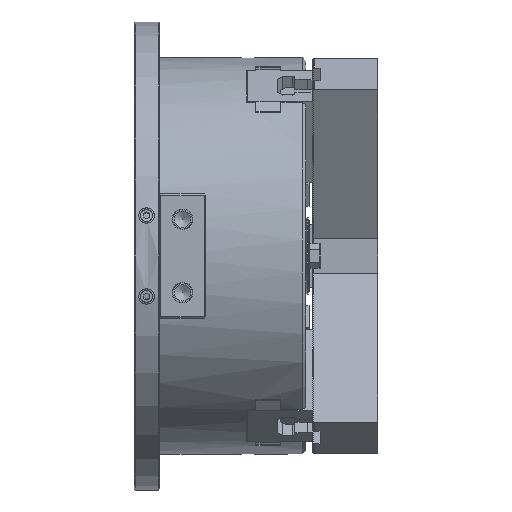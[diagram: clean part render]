
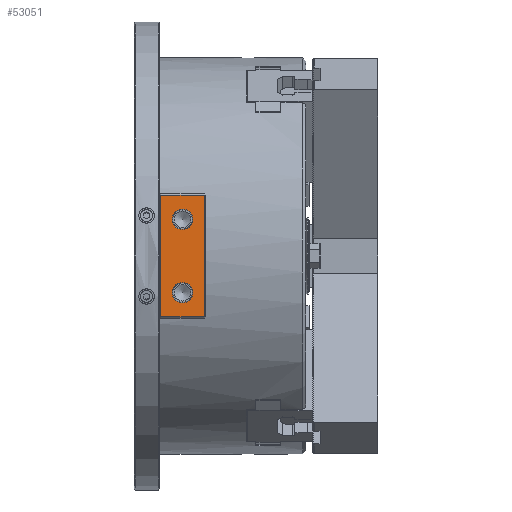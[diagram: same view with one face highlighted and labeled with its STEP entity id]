
A CAD part, front view. The second image highlights one B-rep face of the part: STEP entity #53051.
In plain terms, the highlighted planar face has unit normal (0, -1, 0).
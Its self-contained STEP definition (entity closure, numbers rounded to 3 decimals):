
#2126 = EDGE_CURVE ( 'NONE', #71232, #88413, #35260, .T. ) ;
#2449 = CARTESIAN_POINT ( 'NONE',  ( -79., -147.5, 30.029 ) ) ;
#2918 = DIRECTION ( 'NONE',  ( 1., 0., 0. ) ) ;
#3456 = VECTOR ( 'NONE', #58634, 1000. ) ;
#4467 = EDGE_LOOP ( 'NONE', ( #43865 ) ) ;
#9076 = AXIS2_PLACEMENT_3D ( 'NONE', #63029, #34603, #42318 ) ;
#10708 = ORIENTED_EDGE ( 'NONE', *, *, #2126, .T. ) ;
#11452 = CARTESIAN_POINT ( 'NONE',  ( -64., -147.5, -39. ) ) ;
#12157 = CARTESIAN_POINT ( 'NONE',  ( -93., -147.5, -40. ) ) ;
#12584 = CIRCLE ( 'NONE', #9076, 6.529 ) ;
#16419 = VECTOR ( 'NONE', #61013, 1000. ) ;
#16545 = CARTESIAN_POINT ( 'NONE',  ( -64., -147.5, 39. ) ) ;
#17417 = EDGE_CURVE ( 'NONE', #50743, #71232, #48665, .T. ) ;
#18076 = DIRECTION ( 'NONE',  ( 0., -1., 0. ) ) ;
#19942 = CARTESIAN_POINT ( 'NONE',  ( -65., -147.5, -40. ) ) ;
#25878 = DIRECTION ( 'NONE',  ( 0., 1., 0. ) ) ;
#26126 = EDGE_CURVE ( 'NONE', #50743, #83119, #31182, .T. ) ;
#26517 = CARTESIAN_POINT ( 'NONE',  ( -79., -147.5, -30.029 ) ) ;
#27046 = DIRECTION ( 'NONE',  ( 0., 0., 1. ) ) ;
#31182 = LINE ( 'NONE', #16545, #3456 ) ;
#32749 = CARTESIAN_POINT ( 'NONE',  ( -65., -147.5, -39. ) ) ;
#34603 = DIRECTION ( 'NONE',  ( 0., -1., 0. ) ) ;
#35121 = VERTEX_POINT ( 'NONE', #26517 ) ;
#35260 = LINE ( 'NONE', #11452, #16419 ) ;
#39364 = EDGE_CURVE ( 'NONE', #58529, #58529, #68092, .T. ) ;
#40523 = FACE_BOUND ( 'NONE', #4467, .T. ) ;
#41360 = EDGE_LOOP ( 'NONE', ( #50702 ) ) ;
#41572 = FACE_OUTER_BOUND ( 'NONE', #59567, .T. ) ;
#42318 = DIRECTION ( 'NONE',  ( 0., 0., -1. ) ) ;
#43865 = ORIENTED_EDGE ( 'NONE', *, *, #80201, .F. ) ;
#48665 = LINE ( 'NONE', #12157, #65219 ) ;
#49411 = AXIS2_PLACEMENT_3D ( 'NONE', #88551, #25878, #53129 ) ;
#49983 = EDGE_CURVE ( 'NONE', #88413, #83119, #89962, .T. ) ;
#50702 = ORIENTED_EDGE ( 'NONE', *, *, #39364, .T. ) ;
#50743 = VERTEX_POINT ( 'NONE', #73287 ) ;
#52733 = PLANE ( 'NONE',  #59355 ) ;
#53051 = ADVANCED_FACE ( 'NONE', ( #40523, #41572, #82525 ), #52733, .T. ) ;
#53129 = DIRECTION ( 'NONE',  ( 0., 0., 1. ) ) ;
#58529 = VERTEX_POINT ( 'NONE', #2449 ) ;
#58634 = DIRECTION ( 'NONE',  ( 1., 0., 0. ) ) ;
#59355 = AXIS2_PLACEMENT_3D ( 'NONE', #81153, #18076, #2918 ) ;
#59567 = EDGE_LOOP ( 'NONE', ( #71099, #62597, #80536, #10708 ) ) ;
#60083 = CARTESIAN_POINT ( 'NONE',  ( -65., -147.5, 39. ) ) ;
#61013 = DIRECTION ( 'NONE',  ( 1., 0., 0. ) ) ;
#62597 = ORIENTED_EDGE ( 'NONE', *, *, #26126, .F. ) ;
#63029 = CARTESIAN_POINT ( 'NONE',  ( -79., -147.5, -23.5 ) ) ;
#65219 = VECTOR ( 'NONE', #89374, 1000. ) ;
#68092 = CIRCLE ( 'NONE', #49411, 6.529 ) ;
#71099 = ORIENTED_EDGE ( 'NONE', *, *, #49983, .T. ) ;
#71232 = VERTEX_POINT ( 'NONE', #72551 ) ;
#72551 = CARTESIAN_POINT ( 'NONE',  ( -93., -147.5, -39. ) ) ;
#73287 = CARTESIAN_POINT ( 'NONE',  ( -93., -147.5, 39. ) ) ;
#79955 = VECTOR ( 'NONE', #27046, 1000. ) ;
#80201 = EDGE_CURVE ( 'NONE', #35121, #35121, #12584, .T. ) ;
#80536 = ORIENTED_EDGE ( 'NONE', *, *, #17417, .T. ) ;
#81153 = CARTESIAN_POINT ( 'NONE',  ( -64., -147.5, -40. ) ) ;
#82525 = FACE_BOUND ( 'NONE', #41360, .T. ) ;
#83119 = VERTEX_POINT ( 'NONE', #60083 ) ;
#88413 = VERTEX_POINT ( 'NONE', #32749 ) ;
#88551 = CARTESIAN_POINT ( 'NONE',  ( -79., -147.5, 23.5 ) ) ;
#89374 = DIRECTION ( 'NONE',  ( 0., 0., -1. ) ) ;
#89962 = LINE ( 'NONE', #19942, #79955 ) ;
